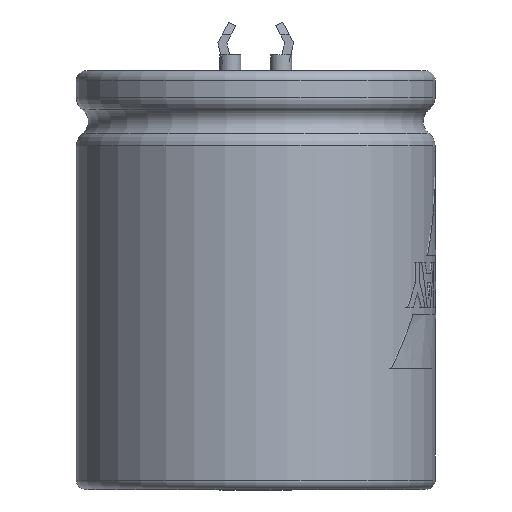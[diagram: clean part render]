
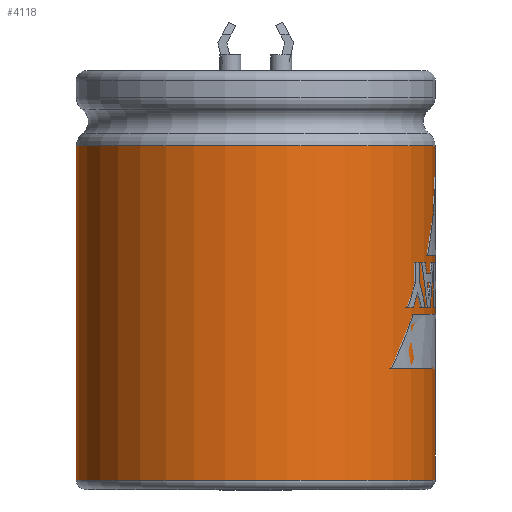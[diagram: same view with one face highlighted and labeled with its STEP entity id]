
A CAD part, left-side view. The second image highlights one B-rep face of the part: STEP entity #4118.
In plain terms, the highlighted cylindrical face has radius 18 mm (diameter 36 mm), a full revolution.
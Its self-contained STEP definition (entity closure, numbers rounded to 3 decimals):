
#4050 = TOROIDAL_SURFACE('',#4051,16.5,1.5);
#4051 = AXIS2_PLACEMENT_3D('',#4052,#4053,#4054);
#4052 = CARTESIAN_POINT('',(0.,0.,-6.55));
#4053 = DIRECTION('',(0.,0.,1.));
#4054 = DIRECTION('',(1.,0.,0.));
#4066 = EDGE_CURVE('',#4067,#4067,#4069,.T.);
#4067 = VERTEX_POINT('',#4068);
#4068 = CARTESIAN_POINT('',(18.,0.,-6.55));
#4069 = SURFACE_CURVE('',#4070,(#4075,#4082),.PCURVE_S1.);
#4070 = CIRCLE('',#4071,18.);
#4071 = AXIS2_PLACEMENT_3D('',#4072,#4073,#4074);
#4072 = CARTESIAN_POINT('',(0.,0.,-6.55));
#4073 = DIRECTION('',(0.,0.,1.));
#4074 = DIRECTION('',(1.,0.,0.));
#4075 = PCURVE('',#4050,#4076);
#4076 = DEFINITIONAL_REPRESENTATION('',(#4077),#4081);
#4077 = LINE('',#4078,#4079);
#4078 = CARTESIAN_POINT('',(0.,6.283));
#4079 = VECTOR('',#4080,1.);
#4080 = DIRECTION('',(1.,0.));
#4081 = ( GEOMETRIC_REPRESENTATION_CONTEXT(2) 
PARAMETRIC_REPRESENTATION_CONTEXT() REPRESENTATION_CONTEXT('2D SPACE',''
  ) );
#4082 = PCURVE('',#4083,#4088);
#4083 = CYLINDRICAL_SURFACE('',#4084,18.);
#4084 = AXIS2_PLACEMENT_3D('',#4085,#4086,#4087);
#4085 = CARTESIAN_POINT('',(0.,0.,-40.1));
#4086 = DIRECTION('',(0.,0.,1.));
#4087 = DIRECTION('',(1.,0.,0.));
#4088 = DEFINITIONAL_REPRESENTATION('',(#4089),#4093);
#4089 = LINE('',#4090,#4091);
#4090 = CARTESIAN_POINT('',(0.,33.55));
#4091 = VECTOR('',#4092,1.);
#4092 = DIRECTION('',(1.,0.));
#4093 = ( GEOMETRIC_REPRESENTATION_CONTEXT(2) 
PARAMETRIC_REPRESENTATION_CONTEXT() REPRESENTATION_CONTEXT('2D SPACE',''
  ) );
#4118 = ADVANCED_FACE('',(#4119),#4083,.T.);
#4119 = FACE_BOUND('',#4120,.T.);
#4120 = EDGE_LOOP('',(#4121,#4150,#4171,#4172));
#4121 = ORIENTED_EDGE('',*,*,#4122,.T.);
#4122 = EDGE_CURVE('',#4123,#4123,#4125,.T.);
#4123 = VERTEX_POINT('',#4124);
#4124 = CARTESIAN_POINT('',(18.,0.,-40.1));
#4125 = SURFACE_CURVE('',#4126,(#4131,#4138),.PCURVE_S1.);
#4126 = CIRCLE('',#4127,18.);
#4127 = AXIS2_PLACEMENT_3D('',#4128,#4129,#4130);
#4128 = CARTESIAN_POINT('',(0.,0.,-40.1));
#4129 = DIRECTION('',(0.,0.,1.));
#4130 = DIRECTION('',(1.,0.,0.));
#4131 = PCURVE('',#4083,#4132);
#4132 = DEFINITIONAL_REPRESENTATION('',(#4133),#4137);
#4133 = LINE('',#4134,#4135);
#4134 = CARTESIAN_POINT('',(0.,0.));
#4135 = VECTOR('',#4136,1.);
#4136 = DIRECTION('',(1.,0.));
#4137 = ( GEOMETRIC_REPRESENTATION_CONTEXT(2) 
PARAMETRIC_REPRESENTATION_CONTEXT() REPRESENTATION_CONTEXT('2D SPACE',''
  ) );
#4138 = PCURVE('',#4139,#4144);
#4139 = TOROIDAL_SURFACE('',#4140,17.05,0.95);
#4140 = AXIS2_PLACEMENT_3D('',#4141,#4142,#4143);
#4141 = CARTESIAN_POINT('',(0.,0.,-40.1));
#4142 = DIRECTION('',(0.,0.,1.));
#4143 = DIRECTION('',(1.,0.,0.));
#4144 = DEFINITIONAL_REPRESENTATION('',(#4145),#4149);
#4145 = LINE('',#4146,#4147);
#4146 = CARTESIAN_POINT('',(0.,6.283));
#4147 = VECTOR('',#4148,1.);
#4148 = DIRECTION('',(1.,0.));
#4149 = ( GEOMETRIC_REPRESENTATION_CONTEXT(2) 
PARAMETRIC_REPRESENTATION_CONTEXT() REPRESENTATION_CONTEXT('2D SPACE',''
  ) );
#4150 = ORIENTED_EDGE('',*,*,#4151,.T.);
#4151 = EDGE_CURVE('',#4123,#4067,#4152,.T.);
#4152 = SEAM_CURVE('',#4153,(#4157,#4164),.PCURVE_S1.);
#4153 = LINE('',#4154,#4155);
#4154 = CARTESIAN_POINT('',(18.,0.,-40.1));
#4155 = VECTOR('',#4156,1.);
#4156 = DIRECTION('',(0.,0.,1.));
#4157 = PCURVE('',#4083,#4158);
#4158 = DEFINITIONAL_REPRESENTATION('',(#4159),#4163);
#4159 = LINE('',#4160,#4161);
#4160 = CARTESIAN_POINT('',(0.,0.));
#4161 = VECTOR('',#4162,1.);
#4162 = DIRECTION('',(0.,1.));
#4163 = ( GEOMETRIC_REPRESENTATION_CONTEXT(2) 
PARAMETRIC_REPRESENTATION_CONTEXT() REPRESENTATION_CONTEXT('2D SPACE',''
  ) );
#4164 = PCURVE('',#4083,#4165);
#4165 = DEFINITIONAL_REPRESENTATION('',(#4166),#4170);
#4166 = LINE('',#4167,#4168);
#4167 = CARTESIAN_POINT('',(6.283,0.));
#4168 = VECTOR('',#4169,1.);
#4169 = DIRECTION('',(0.,1.));
#4170 = ( GEOMETRIC_REPRESENTATION_CONTEXT(2) 
PARAMETRIC_REPRESENTATION_CONTEXT() REPRESENTATION_CONTEXT('2D SPACE',''
  ) );
#4171 = ORIENTED_EDGE('',*,*,#4066,.F.);
#4172 = ORIENTED_EDGE('',*,*,#4151,.F.);
